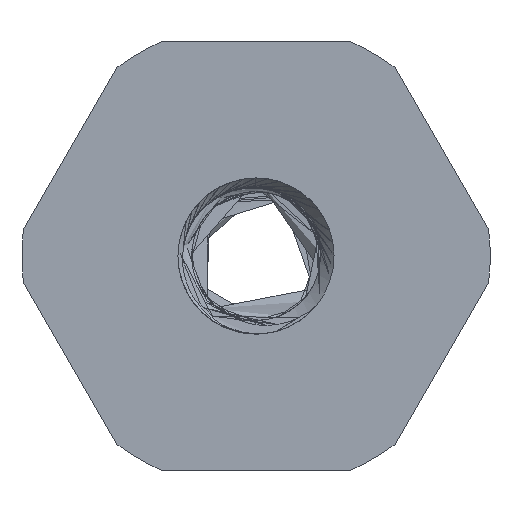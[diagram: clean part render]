
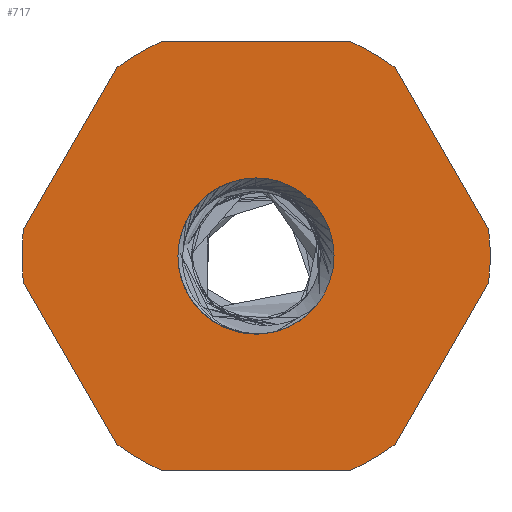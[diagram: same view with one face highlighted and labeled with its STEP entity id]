
A CAD part, front view. The second image highlights one B-rep face of the part: STEP entity #717.
In plain terms, the highlighted planar face has unit normal (0, -1, 0).
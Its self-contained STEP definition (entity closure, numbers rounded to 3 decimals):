
#78 = VERTEX_POINT ( 'NONE', #8136 ) ;
#128 = CARTESIAN_POINT ( 'NONE',  ( -2.398, 0., -5.5 ) ) ;
#213 = VERTEX_POINT ( 'NONE', #11859 ) ;
#388 = EDGE_CURVE ( 'NONE', #3956, #10663, #5795, .T. ) ;
#457 = LINE ( 'NONE', #10006, #10713 ) ;
#469 = DIRECTION ( 'NONE',  ( 0., 1., 0. ) ) ;
#511 = DIRECTION ( 'NONE',  ( 0., 0., 1. ) ) ;
#539 = ORIENTED_EDGE ( 'NONE', *, *, #6864, .T. ) ;
#547 = CARTESIAN_POINT ( 'NONE',  ( 2.398, 0., -5.5 ) ) ;
#655 = VERTEX_POINT ( 'NONE', #8980 ) ;
#664 = DIRECTION ( 'NONE',  ( 0., 1., 0. ) ) ;
#716 = CIRCLE ( 'NONE', #1692, 6. ) ;
#717 = ADVANCED_FACE ( 'NONE', ( #1649, #4596 ), #9065, .F. ) ;
#836 = CARTESIAN_POINT ( 'NONE',  ( 0., 0., 0. ) ) ;
#857 = LINE ( 'NONE', #9654, #8154 ) ;
#980 = DIRECTION ( 'NONE',  ( 0., 0., 1. ) ) ;
#1004 = EDGE_CURVE ( 'NONE', #10663, #11693, #6827, .T. ) ;
#1049 = DIRECTION ( 'NONE',  ( 0., 0., 1. ) ) ;
#1056 = CARTESIAN_POINT ( 'NONE',  ( 0., 0., 0. ) ) ;
#1057 = VECTOR ( 'NONE', #3650, 1000. ) ;
#1190 = CARTESIAN_POINT ( 'NONE',  ( 2.398, 0., 5.5 ) ) ;
#1238 = ORIENTED_EDGE ( 'NONE', *, *, #8582, .T. ) ;
#1252 = EDGE_CURVE ( 'NONE', #9020, #7246, #8795, .T. ) ;
#1482 = VERTEX_POINT ( 'NONE', #9164 ) ;
#1552 = DIRECTION ( 'NONE',  ( 1., 0., 0. ) ) ;
#1591 = CARTESIAN_POINT ( 'NONE',  ( 0.239, 0., -1.986 ) ) ;
#1649 = FACE_BOUND ( 'NONE', #8607, .T. ) ;
#1674 = VERTEX_POINT ( 'NONE', #1800 ) ;
#1692 = AXIS2_PLACEMENT_3D ( 'NONE', #836, #9319, #3670 ) ;
#1768 = EDGE_CURVE ( 'NONE', #78, #5642, #2799, .T. ) ;
#1800 = CARTESIAN_POINT ( 'NONE',  ( 3.564, 0., -4.827 ) ) ;
#1865 = CARTESIAN_POINT ( 'NONE',  ( -3.564, 0., 4.827 ) ) ;
#1995 = EDGE_CURVE ( 'NONE', #213, #10736, #457, .T. ) ;
#2085 = CIRCLE ( 'NONE', #6782, 6. ) ;
#2300 = CARTESIAN_POINT ( 'NONE',  ( 0., 0., 0. ) ) ;
#2341 = DIRECTION ( 'NONE',  ( 0., 0., 1. ) ) ;
#2365 = DIRECTION ( 'NONE',  ( -0.5, 0., 0.866 ) ) ;
#2504 = CARTESIAN_POINT ( 'NONE',  ( -4.763, 0., 2.75 ) ) ;
#2796 = AXIS2_PLACEMENT_3D ( 'NONE', #11869, #469, #2341 ) ;
#2799 = CIRCLE ( 'NONE', #8568, 2. ) ;
#3037 = CARTESIAN_POINT ( 'NONE',  ( 5.962, 0., -0.673 ) ) ;
#3152 = DIRECTION ( 'NONE',  ( 0., 0., 1. ) ) ;
#3211 = CIRCLE ( 'NONE', #6825, 2. ) ;
#3223 = CARTESIAN_POINT ( 'NONE',  ( -5.962, 0., 0.673 ) ) ;
#3353 = AXIS2_PLACEMENT_3D ( 'NONE', #2300, #8960, #3152 ) ;
#3389 = DIRECTION ( 'NONE',  ( 0., 1., 0. ) ) ;
#3404 = DIRECTION ( 'NONE',  ( 0., 1., 0. ) ) ;
#3491 = DIRECTION ( 'NONE',  ( 0., 0., 1. ) ) ;
#3650 = DIRECTION ( 'NONE',  ( 0.5, 0., -0.866 ) ) ;
#3670 = DIRECTION ( 'NONE',  ( 0., 0., 1. ) ) ;
#3762 = EDGE_CURVE ( 'NONE', #5642, #10555, #9435, .T. ) ;
#3823 = ORIENTED_EDGE ( 'NONE', *, *, #8775, .F. ) ;
#3956 = VERTEX_POINT ( 'NONE', #6462 ) ;
#4002 = AXIS2_PLACEMENT_3D ( 'NONE', #5341, #3404, #511 ) ;
#4132 = ORIENTED_EDGE ( 'NONE', *, *, #10173, .F. ) ;
#4596 = FACE_OUTER_BOUND ( 'NONE', #6073, .T. ) ;
#4686 = LINE ( 'NONE', #7933, #6931 ) ;
#4696 = EDGE_CURVE ( 'NONE', #9109, #213, #9859, .T. ) ;
#4883 = CARTESIAN_POINT ( 'NONE',  ( 0., 0., 0. ) ) ;
#4929 = EDGE_CURVE ( 'NONE', #1674, #11819, #2085, .T. ) ;
#4950 = DIRECTION ( 'NONE',  ( -1., 0., 0. ) ) ;
#5043 = DIRECTION ( 'NONE',  ( 0., 1., 0. ) ) ;
#5144 = VECTOR ( 'NONE', #4950, 1000. ) ;
#5341 = CARTESIAN_POINT ( 'NONE',  ( 0., 0., 0. ) ) ;
#5415 = ORIENTED_EDGE ( 'NONE', *, *, #11405, .F. ) ;
#5637 = CARTESIAN_POINT ( 'NONE',  ( 0., 0., 0. ) ) ;
#5642 = VERTEX_POINT ( 'NONE', #1591 ) ;
#5716 = CARTESIAN_POINT ( 'NONE',  ( 5.962, 0., 0.673 ) ) ;
#5746 = DIRECTION ( 'NONE',  ( 0., 1., 0. ) ) ;
#5795 = LINE ( 'NONE', #12225, #1057 ) ;
#6073 = EDGE_LOOP ( 'NONE', ( #9512, #9008, #3823, #6833, #4132, #9880, #12255, #7881, #9181, #10428, #10429, #5415 ) ) ;
#6114 = DIRECTION ( 'NONE',  ( 0.5, 0., 0.866 ) ) ;
#6206 = VECTOR ( 'NONE', #6114, 1000. ) ;
#6231 = CIRCLE ( 'NONE', #4002, 2. ) ;
#6326 = CARTESIAN_POINT ( 'NONE',  ( 0., 0., 0. ) ) ;
#6462 = CARTESIAN_POINT ( 'NONE',  ( 3.564, 0., 4.827 ) ) ;
#6580 = AXIS2_PLACEMENT_3D ( 'NONE', #7838, #10916, #8872 ) ;
#6594 = EDGE_CURVE ( 'NONE', #8554, #655, #10900, .T. ) ;
#6782 = AXIS2_PLACEMENT_3D ( 'NONE', #6326, #664, #3491 ) ;
#6825 = AXIS2_PLACEMENT_3D ( 'NONE', #1056, #10515, #980 ) ;
#6827 = CIRCLE ( 'NONE', #10331, 6. ) ;
#6833 = ORIENTED_EDGE ( 'NONE', *, *, #1252, .F. ) ;
#6864 = EDGE_CURVE ( 'NONE', #10555, #1482, #6231, .T. ) ;
#6931 = VECTOR ( 'NONE', #10650, 1000. ) ;
#7150 = DIRECTION ( 'NONE',  ( 0., 0., 1. ) ) ;
#7246 = VERTEX_POINT ( 'NONE', #3223 ) ;
#7838 = CARTESIAN_POINT ( 'NONE',  ( 0., 0., 0. ) ) ;
#7881 = ORIENTED_EDGE ( 'NONE', *, *, #4929, .F. ) ;
#7933 = CARTESIAN_POINT ( 'NONE',  ( 4.763, 0., -2.75 ) ) ;
#8136 = CARTESIAN_POINT ( 'NONE',  ( 1.553, 0., -1.261 ) ) ;
#8154 = VECTOR ( 'NONE', #2365, 1000. ) ;
#8554 = VERTEX_POINT ( 'NONE', #128 ) ;
#8568 = AXIS2_PLACEMENT_3D ( 'NONE', #4883, #10674, #1049 ) ;
#8582 = EDGE_CURVE ( 'NONE', #1482, #78, #3211, .T. ) ;
#8607 = EDGE_LOOP ( 'NONE', ( #9575, #12068, #539, #1238 ) ) ;
#8775 = EDGE_CURVE ( 'NONE', #7246, #9109, #11584, .T. ) ;
#8795 = CIRCLE ( 'NONE', #9906, 6. ) ;
#8872 = DIRECTION ( 'NONE',  ( 0., 0., 1. ) ) ;
#8960 = DIRECTION ( 'NONE',  ( 0., 1., 0. ) ) ;
#8980 = CARTESIAN_POINT ( 'NONE',  ( -3.564, 0., -4.827 ) ) ;
#9008 = ORIENTED_EDGE ( 'NONE', *, *, #4696, .F. ) ;
#9020 = VERTEX_POINT ( 'NONE', #11286 ) ;
#9065 = PLANE ( 'NONE',  #12320 ) ;
#9109 = VERTEX_POINT ( 'NONE', #1865 ) ;
#9164 = CARTESIAN_POINT ( 'NONE',  ( 0., 0., 2. ) ) ;
#9181 = ORIENTED_EDGE ( 'NONE', *, *, #9883, .F. ) ;
#9319 = DIRECTION ( 'NONE',  ( 0., 1., 0. ) ) ;
#9435 = CIRCLE ( 'NONE', #2796, 2. ) ;
#9512 = ORIENTED_EDGE ( 'NONE', *, *, #1995, .F. ) ;
#9575 = ORIENTED_EDGE ( 'NONE', *, *, #1768, .T. ) ;
#9604 = DIRECTION ( 'NONE',  ( 0., 0., 1. ) ) ;
#9618 = LINE ( 'NONE', #10835, #5144 ) ;
#9654 = CARTESIAN_POINT ( 'NONE',  ( -4.763, 0., -2.75 ) ) ;
#9859 = CIRCLE ( 'NONE', #3353, 6. ) ;
#9880 = ORIENTED_EDGE ( 'NONE', *, *, #6594, .F. ) ;
#9883 = EDGE_CURVE ( 'NONE', #11693, #1674, #4686, .T. ) ;
#9906 = AXIS2_PLACEMENT_3D ( 'NONE', #10792, #5043, #11791 ) ;
#10006 = CARTESIAN_POINT ( 'NONE',  ( 0., 0., 5.5 ) ) ;
#10173 = EDGE_CURVE ( 'NONE', #655, #9020, #857, .T. ) ;
#10331 = AXIS2_PLACEMENT_3D ( 'NONE', #5637, #5746, #9604 ) ;
#10428 = ORIENTED_EDGE ( 'NONE', *, *, #1004, .F. ) ;
#10429 = ORIENTED_EDGE ( 'NONE', *, *, #388, .F. ) ;
#10515 = DIRECTION ( 'NONE',  ( 0., 1., 0. ) ) ;
#10555 = VERTEX_POINT ( 'NONE', #11396 ) ;
#10650 = DIRECTION ( 'NONE',  ( -0.5, 0., -0.866 ) ) ;
#10663 = VERTEX_POINT ( 'NONE', #5716 ) ;
#10674 = DIRECTION ( 'NONE',  ( 0., 1., 0. ) ) ;
#10713 = VECTOR ( 'NONE', #1552, 1000. ) ;
#10736 = VERTEX_POINT ( 'NONE', #1190 ) ;
#10792 = CARTESIAN_POINT ( 'NONE',  ( 0., 0., 0. ) ) ;
#10825 = EDGE_CURVE ( 'NONE', #11819, #8554, #9618, .T. ) ;
#10835 = CARTESIAN_POINT ( 'NONE',  ( 0., 0., -5.5 ) ) ;
#10900 = CIRCLE ( 'NONE', #6580, 6. ) ;
#10916 = DIRECTION ( 'NONE',  ( 0., 1., 0. ) ) ;
#11286 = CARTESIAN_POINT ( 'NONE',  ( -5.962, 0., -0.673 ) ) ;
#11396 = CARTESIAN_POINT ( 'NONE',  ( 0., 0., -2. ) ) ;
#11405 = EDGE_CURVE ( 'NONE', #10736, #3956, #716, .T. ) ;
#11584 = LINE ( 'NONE', #2504, #6206 ) ;
#11693 = VERTEX_POINT ( 'NONE', #3037 ) ;
#11791 = DIRECTION ( 'NONE',  ( 0., 0., 1. ) ) ;
#11819 = VERTEX_POINT ( 'NONE', #547 ) ;
#11859 = CARTESIAN_POINT ( 'NONE',  ( -2.398, 0., 5.5 ) ) ;
#11869 = CARTESIAN_POINT ( 'NONE',  ( 0., 0., 0. ) ) ;
#11931 = CARTESIAN_POINT ( 'NONE',  ( 0., 0., 0. ) ) ;
#12068 = ORIENTED_EDGE ( 'NONE', *, *, #3762, .T. ) ;
#12225 = CARTESIAN_POINT ( 'NONE',  ( 4.763, 0., 2.75 ) ) ;
#12255 = ORIENTED_EDGE ( 'NONE', *, *, #10825, .F. ) ;
#12320 = AXIS2_PLACEMENT_3D ( 'NONE', #11931, #3389, #7150 ) ;
